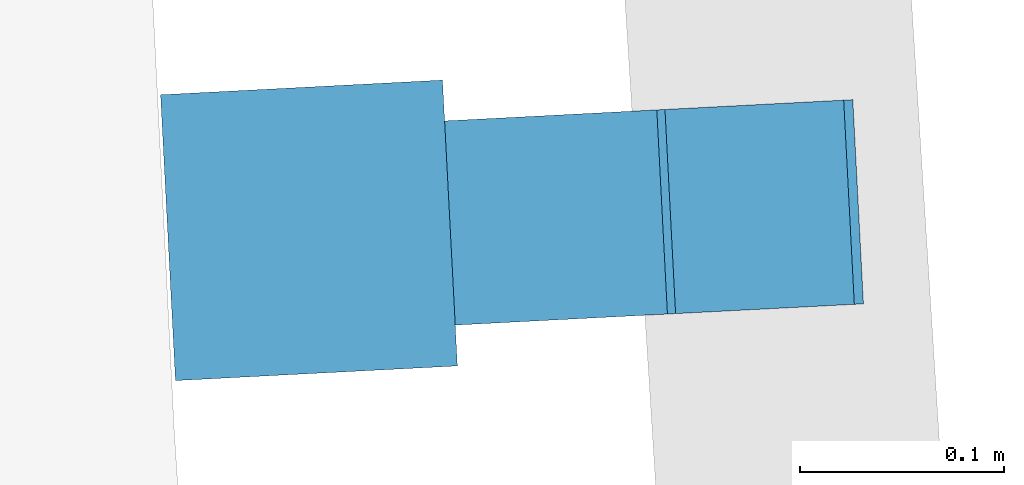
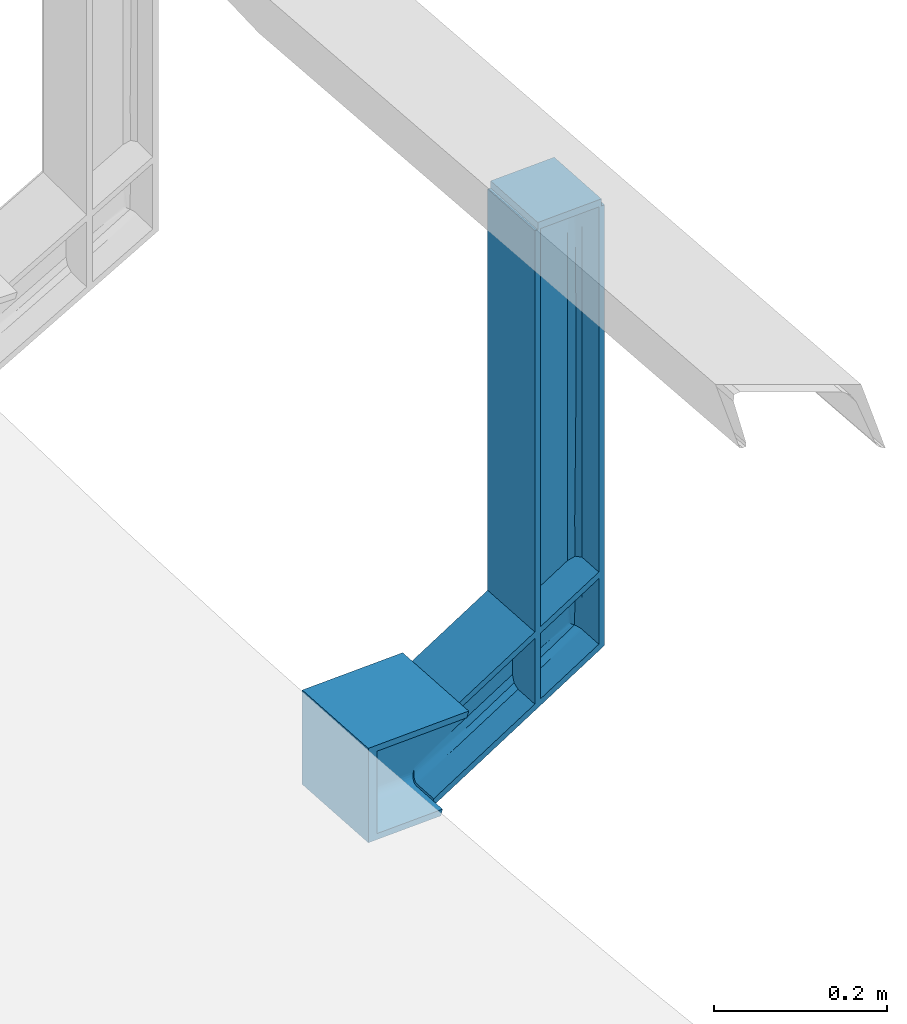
# One storey, part 39 of 68: 1 beam.
"""IFC2X3 building model written with IfcOpenShell, lengths in millimetres."""

from ifc_helpers import new_model, entity, si_unit, converted_unit, derived_unit, direction, frame, origin, place, context, subcontext, project, spatial, faceted_brep, source, transform, mapped, material, type_object, type_shapes, element, save


model = new_model("IFC2X3")

# Units and contexts
model_context = context("Model", 3, precision=0.01, world=origin(), true_north=direction((6.12303176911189e-17, 1.0)))
body_context = subcontext(model_context, "Body", "Model", "MODEL_VIEW")
ifc_project = project(units=[si_unit("LENGTHUNIT", "METRE", prefix="MILLI"), si_unit("AREAUNIT", "SQUARE_METRE", prefix="MILLI"), si_unit("VOLUMEUNIT", "CUBIC_METRE"), converted_unit("PLANEANGLEUNIT", "DEGREE", entity("IfcRatioMeasure", 0.0174532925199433), si_unit("PLANEANGLEUNIT", "RADIAN"), dimensions=[0, 0, 0, 0, 0, 0, 0]), si_unit("MASSUNIT", "GRAM", prefix="KILO"), derived_unit("MASSDENSITYUNIT", [(si_unit("MASSUNIT", "GRAM", prefix="KILO"), 1), (si_unit("LENGTHUNIT", "METRE"), -3)]), derived_unit("MOMENTOFINERTIAUNIT", [(si_unit("LENGTHUNIT", "METRE"), 4)]), si_unit("TIMEUNIT", "SECOND"), si_unit("FREQUENCYUNIT", "HERTZ"), si_unit("THERMODYNAMICTEMPERATUREUNIT", "DEGREE_CELSIUS"), derived_unit("THERMALTRANSMITTANCEUNIT", [(si_unit("MASSUNIT", "GRAM", prefix="KILO"), 1), (si_unit("THERMODYNAMICTEMPERATUREUNIT", "KELVIN"), -1), (si_unit("TIMEUNIT", "SECOND"), -3)]), derived_unit("VOLUMETRICFLOWRATEUNIT", [(si_unit("LENGTHUNIT", "METRE"), 3), (si_unit("TIMEUNIT", "SECOND"), -1)]), si_unit("ELECTRICCURRENTUNIT", "AMPERE"), si_unit("ELECTRICVOLTAGEUNIT", "VOLT"), si_unit("POWERUNIT", "WATT"), si_unit("FORCEUNIT", "NEWTON", prefix="KILO"), si_unit("ILLUMINANCEUNIT", "LUX"), si_unit("LUMINOUSFLUXUNIT", "LUMEN"), si_unit("LUMINOUSINTENSITYUNIT", "CANDELA"), derived_unit("USERDEFINED", [(si_unit("MASSUNIT", "GRAM", prefix="KILO"), -1), (si_unit("LENGTHUNIT", "METRE"), -2), (si_unit("TIMEUNIT", "SECOND"), 3), (si_unit("LUMINOUSFLUXUNIT", "LUMEN"), 1)]), derived_unit("LINEARVELOCITYUNIT", [(si_unit("LENGTHUNIT", "METRE"), 1), (si_unit("TIMEUNIT", "SECOND"), -1)]), si_unit("PRESSUREUNIT", "PASCAL"), derived_unit("USERDEFINED", [(si_unit("LENGTHUNIT", "METRE"), -2), (si_unit("MASSUNIT", "GRAM", prefix="KILO"), 1), (si_unit("TIMEUNIT", "SECOND"), -2)]), derived_unit("LINEARFORCEUNIT", [(si_unit("MASSUNIT", "GRAM", prefix="KILO"), 1), (si_unit("LENGTHUNIT", "METRE"), 1), (si_unit("TIMEUNIT", "SECOND"), -2), (si_unit("LENGTHUNIT", "METRE"), -1)]), derived_unit("PLANARFORCEUNIT", [(si_unit("MASSUNIT", "GRAM", prefix="KILO"), 1), (si_unit("LENGTHUNIT", "METRE"), 1), (si_unit("TIMEUNIT", "SECOND"), -2), (si_unit("LENGTHUNIT", "METRE"), -2)])], contexts=[model_context])

# Site, building, storey
site_placement = place(None, origin())
site = spatial("IfcSite", under=ifc_project, at=site_placement, Name="Theater aan de Parade", CompositionType="ELEMENT")
building_placement = place(site_placement, origin())
building = spatial("IfcBuilding", under=site, at=building_placement, Name="Theater aan de Parade", CompositionType="ELEMENT")
storey_placement = place(building_placement, frame((0.0, 0.0, 8750.0)))
storey = spatial("IfcBuildingStorey", under=building, at=storey_placement, Name="02 tweede verdieping", CompositionType="ELEMENT", Elevation=8750.0)

# Beam
ifc_material = material(Name="00_PBT_MAT_staal_S355")
beam_type = type_object("IfcBeamType", Name="28_PBT_SF_staal_baluster balkon:baluster HEA100", PredefinedType="BEAM", material=ifc_material)
shared_shape = source(origin(), body_context, "Body", "Brep", [
    faceted_brep([(50.0, 43.537813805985, 625.0), (50.0, 43.537813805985, 635.0), (50.0, -44.0, 635.0), (50.0, -44.0, 625.0), (-50.0, 43.537813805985, 625.0), (-50.0, -44.0, 625.0), (-50.0, -44.0, 635.0), (-50.0, 43.537813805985, 635.0)], [[[0, 1, 2, 3]], [[4, 5, 6, 7]], [[3, 5, 4, 0]], [[2, 6, 5, 3]], [[1, 7, 6, 2]], [[0, 4, 7, 1]]]),
    faceted_brep([(70.0, -278.0, -133.0), (70.0, -278.0, 0.0), (70.0, -290.0, 0.0), (70.0, -290.0, -133.0), (-70.0, -278.0, -133.0), (-70.0, -290.0, -133.0), (-70.0, -290.0, 0.0), (-70.0, -278.0, 0.0)], [[[0, 1, 2, 3]], [[4, 5, 6, 7]], [[3, 5, 4, 0]], [[2, 6, 5, 3]], [[1, 7, 6, 2]], [[0, 4, 7, 1]]]),
    faceted_brep([(70.0, -278.0, -133.0), (70.0, -278.0, -124.5), (14.7499999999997, -278.0, -124.5), (11.6441714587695, -278.0, -124.091109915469), (8.74999999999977, -278.0, -122.892304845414), (6.26471862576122, -278.0, -120.985281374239), (4.35769515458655, -278.0, -118.5), (3.15889008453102, -278.0, -115.60582854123), (2.74999999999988, -278.0, -112.5), (2.74999999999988, -278.0, -20.5000000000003), (3.15889008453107, -278.0, -17.39417145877), (4.35769515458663, -278.0, -14.5000000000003), (6.26471862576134, -278.0, -12.0147186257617), (8.74999999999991, -278.0, -10.107695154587), (11.6441714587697, -278.0, -8.90889008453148), (14.7499999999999, -278.0, -8.50000000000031), (70.0, -278.0, -8.50000000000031), (70.0, -278.0, 0.0), (-70.0, -278.0, 0.0), (-70.0, -278.0, -8.50000000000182), (-14.7499999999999, -278.0, -8.50000000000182), (-11.6441714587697, -278.0, -8.90889008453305), (-8.74999999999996, -278.0, -10.1076951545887), (-6.26471862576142, -278.0, -12.0147186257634), (-4.35769515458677, -278.0, -14.500000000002), (-3.15889008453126, -278.0, -17.3941714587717), (-2.75000000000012, -278.0, -20.5000000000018), (-2.75000000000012, -278.0, -112.500000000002), (-3.15889008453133, -278.0, -115.605828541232), (-4.3576951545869, -278.0, -118.500000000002), (-6.26471862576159, -278.0, -120.98528137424), (-8.75000000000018, -278.0, -122.892304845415), (-11.6441714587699, -278.0, -124.091109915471), (-14.7500000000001, -278.0, -124.500000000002), (-70.0, -278.0, -124.500000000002), (-70.0, -278.0, -133.0), (70.0, -154.37480362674, -8.50000000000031), (70.0, -151.923048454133, 0.0), (70.0, -190.285805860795, -133.0), (70.0, -187.834050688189, -124.5), (14.7499999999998, -214.852904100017, -8.50000000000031), (14.7499999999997, -154.37480362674, -8.50000000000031), (-70.0, -154.37480362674, -8.50000000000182), (-14.7500000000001, -154.37480362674, -8.50000000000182), (-14.7500000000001, -214.852905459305, -8.50000000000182), (6.43965673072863, -216.327371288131, -11.8433150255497), (2.74999999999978, -217.521904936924, -20.5000000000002), (12.079748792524, -154.461585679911, -8.8008650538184), (9.5433951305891, -154.717580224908, -9.68837358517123), (5.36802221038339, -155.678018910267, -13.0181223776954), (7.26812237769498, -155.129950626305, -11.1180222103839), (2.74999999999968, -157.83610504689, -20.5000000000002), (3.05086505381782, -157.065893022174, -17.8297487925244), (3.9383735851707, -156.334302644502, -15.2933951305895), (2.74999999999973, -184.372749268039, -112.5), (3.93837358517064, -185.874551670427, -117.706604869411), (3.05086505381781, -185.142961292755, -115.170251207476), (5.36802221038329, -186.530835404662, -119.981877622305), (7.26812237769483, -187.078903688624, -121.881977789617), (9.54339513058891, -187.491274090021, -123.311626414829), (12.0797487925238, -187.747268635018, -124.199134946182), (14.7499999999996, -187.834050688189, -124.5), (-14.7500000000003, -187.83405068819, -124.500000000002), (-70.0, -187.83405068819, -124.500000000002), (-70.0, -190.285805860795, -133.0), (-70.0, -151.923048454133, 0.0), (-9.54339513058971, -187.491274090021, -123.311626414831), (-12.0797487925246, -187.747268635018, -124.199134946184), (-7.2681223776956, -187.078903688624, -121.881977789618), (-5.36802221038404, -186.530835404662, -119.981877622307), (-3.93837358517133, -185.874551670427, -117.706604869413), (-3.05086505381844, -185.142961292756, -115.170251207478), (-2.75000000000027, -184.37274926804, -112.500000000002), (-2.75000000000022, -217.521899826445, -20.500000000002), (-2.75000000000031, -157.83610504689, -20.500000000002), (-6.43965718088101, -216.327373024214, -11.8433145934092), (-3.05086505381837, -157.065893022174, -17.8297487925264), (-3.93837358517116, -156.334302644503, -15.2933951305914), (-7.2681223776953, -155.129950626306, -11.1180222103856), (-5.36802221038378, -155.678018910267, -13.0181223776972), (-12.0797487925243, -154.461585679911, -8.80086505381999), (-9.54339513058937, -154.717580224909, -9.68837358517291)], [[[0, 1, 2, 3, 4, 5, 6, 7, 8, 9, 10, 11, 12, 13, 14, 15, 16, 17, 18, 19, 20, 21, 22, 23, 24, 25, 26, 27, 28, 29, 30, 31, 32, 33, 34, 35]], [[36, 37, 17, 16]], [[38, 39, 1, 0]], [[36, 16, 15, 40, 41]], [[19, 42, 43, 44, 20]], [[13, 45, 14]], [[12, 45, 13]], [[46, 45, 11]], [[47, 41, 40]], [[14, 40, 15]], [[45, 12, 11]], [[48, 47, 40]], [[49, 50, 45]], [[10, 9, 46]], [[40, 45, 48]], [[11, 10, 46]], [[46, 51, 52]], [[53, 46, 52]], [[46, 53, 45]], [[45, 53, 49]], [[45, 50, 48]], [[14, 45, 40]], [[54, 51, 46, 9, 8]], [[7, 6, 55]], [[8, 7, 56]], [[56, 54, 8]], [[57, 55, 6]], [[56, 7, 55]], [[6, 5, 57]], [[58, 5, 4]], [[59, 4, 3]], [[60, 3, 2]], [[59, 58, 4]], [[61, 60, 2]], [[59, 3, 60]], [[5, 58, 57]], [[39, 61, 2, 1]], [[62, 63, 34, 33]], [[38, 0, 35, 64]], [[64, 35, 34, 63]], [[42, 19, 18, 65]], [[32, 31, 66]], [[33, 32, 67]], [[67, 62, 33]], [[68, 66, 31]], [[67, 32, 66]], [[31, 30, 68]], [[69, 30, 29]], [[70, 29, 28]], [[71, 28, 27]], [[70, 69, 29]], [[72, 71, 27]], [[70, 28, 71]], [[30, 69, 68]], [[72, 27, 26, 73, 74]], [[25, 24, 73]], [[24, 23, 75]], [[75, 22, 21]], [[76, 74, 73]], [[75, 23, 22]], [[73, 77, 76]], [[78, 79, 75]], [[44, 80, 81]], [[73, 75, 77]], [[25, 73, 26]], [[21, 44, 75]], [[21, 20, 44]], [[43, 80, 44]], [[44, 81, 75]], [[78, 75, 81]], [[75, 79, 77]], [[73, 24, 75]], [[37, 65, 18, 17]], [[39, 38, 64, 63, 62, 67, 66, 68, 69, 70, 71, 72, 74, 76, 77, 79, 78, 81, 80, 43, 42, 65, 37, 36, 41, 47, 48, 50, 49, 53, 52, 51, 54, 56, 55, 57, 58, 59, 60, 61]]]),
    faceted_brep([(50.0, 48.0, 106.188021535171), (50.0, 48.0, 115.425625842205), (50.0, -151.923048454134, 0.0), (50.0, -155.119944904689, -11.0833333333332), (50.0, 48.0, 4.57437415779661), (50.0, 48.0, 13.8119784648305), (50.0, -187.08890941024, -121.916666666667), (50.0, -190.285805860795, -133.0), (14.4999999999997, -155.119944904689, -11.0833333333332), (14.4999999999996, -56.7511342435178, 45.7099259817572), (14.4999999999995, -4.37557443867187, 75.9489695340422), (14.4999999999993, 48.0, 106.188021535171), (-50.0, -155.119944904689, -11.0833333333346), (-50.0, 48.0, 106.188021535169), (-14.5000000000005, 48.0, 106.188021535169), (-14.5000000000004, -4.37556718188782, 75.9489737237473), (-14.5000000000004, -56.7511343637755, 45.7099259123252), (-14.5000000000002, -155.119944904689, -11.0833333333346), (9.9077988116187, -155.484968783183, -12.348836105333), (6.13940978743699, -85.6560198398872, 25.1051305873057), (12.1589161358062, -155.212086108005, -11.4027780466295), (2.49999999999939, -4.37556820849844, 62.0925666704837), (2.49999999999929, 48.0, 92.3316150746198), (2.80086505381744, 48.0, 95.4149555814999), (6.04197655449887, -10.2229142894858, 68.5459327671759), (2.49999999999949, -55.1641531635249, 32.769763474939), (2.73057663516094, -158.979764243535, -24.4649567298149), (2.49999999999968, -159.915289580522, -27.7083333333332), (2.49999999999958, -107.539721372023, 2.53071507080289), (7.83315720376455, -155.92810620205, -13.8851510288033), (11.8297487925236, 48.0, 105.840612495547), (4.52236465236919, -157.25113882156, -18.4719782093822), (3.41344560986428, -158.0801906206, -21.3462212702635), (5.11802221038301, 48.0, 100.970943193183), (7.01812237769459, 48.0, 103.164989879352), (3.68837358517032, 48.0, 98.3436845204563), (9.29339513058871, 48.0, 104.815805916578), (6.01471862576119, -156.524468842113, -15.9526830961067), (2.49999999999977, -182.293564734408, -105.291666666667), (2.49999999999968, -129.917998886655, -75.052619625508), (2.49999999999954, -56.7511354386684, -32.8097113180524), (2.49999999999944, -4.3755695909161, -2.57066427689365), (2.49999999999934, 48.0, 27.6683849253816), (6.01471862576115, -185.684385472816, -117.047316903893), (6.30956465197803, -103.743785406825, -70.0679088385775), (4.52236465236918, -184.957715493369, -114.528021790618), (7.83315720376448, -186.280748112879, -119.114848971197), (9.90779881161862, -186.723885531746, -120.651163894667), (14.4999999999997, -134.713341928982, -91.677618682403), (12.1589161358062, -186.996768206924, -121.597221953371), (14.4999999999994, -4.37556748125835, -16.4270695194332), (5.87838992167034, -26.389988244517, -24.9186641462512), (14.4999999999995, -69.5444547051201, -54.0523441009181), (5.11802221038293, 48.0, 19.0290568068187), (3.4134456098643, -184.128663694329, -111.653778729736), (2.80086505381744, 48.0, 24.5850444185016), (3.68837358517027, 48.0, 21.6563154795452), (14.4999999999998, -187.08890941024, -121.916666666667), (7.01812237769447, 48.0, 16.8350101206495), (9.29339513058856, 48.0, 15.1841940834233), (2.73057663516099, -183.229090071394, -108.535043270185), (11.8297487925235, 48.0, 14.1593875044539), (14.4999999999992, 48.0, 13.8119784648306), (-50.0, -187.088909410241, -121.916666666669), (-14.5000000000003, -187.088909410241, -121.916666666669), (-14.5000000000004, -134.713341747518, -91.6776185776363), (-14.5000000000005, -69.544456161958, -54.0523449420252), (-14.5000000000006, -4.37556766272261, -16.427069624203), (-14.5000000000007, 48.0, 13.8119784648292), (-50.0, 48.0, 13.8119784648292), (-50.0, -190.285805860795, -133.0), (-50.0, 48.0, 4.57437415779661), (-50.0, -151.923048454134, 0.0), (-50.0, 48.0, 115.425625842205), (-6.30956482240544, -103.743788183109, -70.0679106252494), (-4.52236465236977, -184.95771549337, -114.52802179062), (-3.41344560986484, -184.128663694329, -111.653778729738), (-2.50000000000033, -129.917995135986, -75.0526174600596), (-5.87838988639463, -26.3899865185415, -24.9186631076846), (-7.01812237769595, 48.0, 16.835010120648), (-9.29339513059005, 48.0, 15.1841940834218), (-6.01471862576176, -185.684385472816, -117.047316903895), (-7.8331572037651, -186.28074811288, -119.114848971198), (-11.829748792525, 48.0, 14.1593875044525), (-2.50000000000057, -4.37556959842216, -2.57066428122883), (-5.11802221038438, 48.0, 19.0290568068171), (-2.7305766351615, -183.229090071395, -108.535043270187), (-2.50000000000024, -182.293564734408, -105.291666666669), (-9.90779881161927, -186.723885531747, -120.651163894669), (-12.1589161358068, -186.996768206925, -121.597221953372), (-2.50000000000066, 48.0, 27.6683849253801), (-2.80086505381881, 48.0, 24.5850444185), (-2.50000000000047, -56.7511295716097, -32.809707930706), (-3.68837358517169, 48.0, 21.6563154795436), (-2.50000000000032, -159.915289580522, -27.708333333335), (-2.50000000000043, -107.539724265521, 2.53071340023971), (-2.50000000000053, -55.1641511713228, 32.7697646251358), (-2.50000000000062, -4.37556531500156, 62.0925683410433), (-2.50000000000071, 48.0, 92.3316150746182), (-2.73057663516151, -158.979764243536, -24.464956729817), (-11.8297487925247, 48.0, 105.840612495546), (-7.83315720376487, -155.92810620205, -13.885151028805), (-6.13940988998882, -85.6560228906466, 25.1051289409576), (-6.01471862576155, -156.524468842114, -15.9526830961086), (-6.04197656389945, -10.2229155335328, 68.5459320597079), (-7.0181223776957, 48.0, 103.16498987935), (-5.11802221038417, 48.0, 100.970943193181), (-9.90779881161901, -155.484968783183, -12.3488361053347), (-4.52236465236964, -157.25113882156, -18.4719782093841), (-3.68837358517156, 48.0, 98.3436845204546), (-2.80086505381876, 48.0, 95.4149555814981), (-12.1589161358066, -155.212086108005, -11.402778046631), (-3.41344560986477, -158.080190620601, -21.3462212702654), (-9.29339513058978, 48.0, 104.815805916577)], [[[0, 1, 2, 3]], [[4, 5, 6, 7]], [[0, 3, 8, 9, 10, 11]], [[12, 13, 14, 15, 16, 17]], [[18, 19, 20]], [[21, 22, 23]], [[24, 25, 21]], [[26, 27, 28]], [[19, 18, 29]], [[25, 19, 28]], [[9, 24, 10]], [[20, 9, 8]], [[19, 9, 20]], [[19, 24, 9]], [[25, 24, 19]], [[30, 11, 10]], [[28, 31, 32]], [[24, 33, 34]], [[33, 24, 35]], [[35, 24, 21]], [[36, 24, 34]], [[28, 32, 26]], [[31, 19, 37]], [[30, 10, 36]], [[31, 28, 19]], [[35, 21, 23]], [[36, 10, 24]], [[37, 19, 29]], [[27, 38, 39, 40, 41, 42, 22, 21, 25, 28]], [[43, 44, 45]], [[46, 47, 48]], [[48, 47, 49]], [[50, 51, 52]], [[53, 41, 51]], [[54, 45, 44]], [[55, 42, 41]], [[55, 41, 56]], [[49, 57, 48]], [[40, 39, 44]], [[58, 53, 51]], [[43, 46, 44]], [[51, 59, 58]], [[39, 54, 44]], [[54, 39, 60]], [[40, 44, 51]], [[61, 50, 62]], [[41, 40, 51]], [[44, 48, 52]], [[44, 46, 48]], [[56, 41, 53]], [[39, 38, 60]], [[59, 50, 61]], [[51, 44, 52]], [[51, 50, 59]], [[5, 62, 50, 52, 48, 57, 6]], [[63, 64, 65, 66, 67, 68, 69]], [[4, 7, 70, 71]], [[71, 70, 63, 69]], [[13, 12, 72, 73]], [[66, 65, 74]], [[75, 76, 74]], [[77, 74, 76]], [[78, 79, 80]], [[81, 74, 82]], [[83, 67, 80]], [[78, 84, 85]], [[86, 87, 77]], [[88, 82, 65]], [[88, 65, 89]], [[84, 90, 91]], [[66, 74, 78]], [[78, 80, 67]], [[92, 78, 74]], [[83, 68, 67]], [[84, 78, 92]], [[93, 84, 91]], [[93, 85, 84]], [[74, 65, 82]], [[78, 85, 79]], [[64, 89, 65]], [[74, 81, 75]], [[74, 77, 92]], [[86, 77, 76]], [[66, 78, 67]], [[94, 95, 96, 97, 98, 90, 84, 92, 77, 87]], [[94, 99, 95]], [[15, 14, 100]], [[101, 102, 103]], [[104, 105, 106]], [[107, 102, 101]], [[103, 102, 108]], [[16, 104, 102]], [[104, 96, 102]], [[102, 95, 108]], [[109, 110, 97]], [[107, 111, 102]], [[96, 104, 97]], [[109, 104, 106]], [[112, 95, 99]], [[16, 15, 104]], [[95, 112, 108]], [[113, 15, 100]], [[16, 102, 111]], [[97, 104, 109]], [[102, 96, 95]], [[113, 104, 15]], [[111, 17, 16]], [[105, 104, 113]], [[110, 98, 97]], [[1, 73, 72, 2]], [[5, 4, 71, 69, 68, 83, 80, 79, 85, 93, 91, 90, 98, 110, 109, 106, 105, 113, 100, 14, 13, 73, 1, 0, 11, 30, 36, 34, 33, 35, 23, 22, 42, 55, 56, 53, 58, 59, 61, 62]], [[3, 2, 72, 12, 17, 111, 107, 101, 103, 108, 112, 99, 94, 87, 86, 76, 75, 81, 82, 88, 89, 64, 63, 70, 7, 6, 57, 49, 47, 46, 43, 45, 54, 60, 38, 27, 26, 32, 31, 37, 29, 18, 20, 8]]]),
    faceted_brep([(50.0, -48.0, 625.0), (50.0, -40.0, 625.0), (14.4999999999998, -40.0, 625.0), (11.3941714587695, -39.5911099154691, 625.0), (8.4999999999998, -38.3923048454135, 625.0), (6.01471862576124, -36.4852813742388, 625.0), (4.10769515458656, -34.0, 625.0), (2.90889008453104, -31.1058285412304, 625.0), (2.49999999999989, -28.0, 625.0), (2.49999999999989, 28.0, 625.0), (2.90889008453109, 31.10582854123, 625.0), (4.10769515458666, 34.0, 625.0), (6.01471862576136, 36.4852813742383, 625.0), (8.49999999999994, 38.392304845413, 625.0), (11.3941714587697, 39.5911099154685, 625.0), (14.4999999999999, 40.0, 625.0), (50.0, 40.0, 625.0), (50.0, 48.0, 625.0), (-50.0, 48.0, 625.0), (-50.0, 40.0, 625.0), (-14.4999999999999, 40.0, 625.0), (-11.3941714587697, 39.5911099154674, 625.0), (-8.49999999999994, 38.3923048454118, 625.0), (-6.01471862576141, 36.4852813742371, 625.0), (-4.10769515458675, 34.0, 625.0), (-2.90889008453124, 31.1058285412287, 625.0), (-2.50000000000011, 28.0, 625.0), (-2.5000000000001, -28.0, 625.0), (-2.90889008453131, -31.1058285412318, 625.0), (-4.10769515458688, -34.0, 625.0), (-6.01471862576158, -36.4852813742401, 625.0), (-8.50000000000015, -38.3923048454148, 625.0), (-11.3941714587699, -39.5911099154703, 625.0), (-14.5000000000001, -40.0, 625.0), (-50.0, -40.0, 625.0), (-50.0, -48.0, 625.0), (50.0, 48.0, 165.0), (50.0, 40.0, -0.0444279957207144), (50.0, 48.0, 4.57437415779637), (50.0, -40.0, -46.2324495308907), (50.0, -48.0, -50.8512516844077), (14.4999999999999, 40.0, 564.521909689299), (14.4999999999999, 40.0, 468.738898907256), (14.4999999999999, 40.0, 390.608336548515), (14.4999999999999, 40.0, 312.477797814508), (14.4999999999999, 40.0, 234.347235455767), (14.4999999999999, 40.0, 156.216673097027), (14.4999999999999, 40.0, 60.4336623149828), (14.4999999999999, 40.0, -0.0444279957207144), (-50.0, 40.0, -0.0444279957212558), (-14.4999999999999, 40.0, -0.0444279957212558), (-14.4999999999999, 40.0, 60.4336769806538), (-14.4999999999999, 40.0, 156.21667900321), (-14.5, 40.0, 234.34724221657), (-14.5, 40.0, 312.477786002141), (-14.5, 40.0, 390.608329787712), (-14.5, 40.0, 468.738893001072), (-14.5, 40.0, 564.521895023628), (6.01471822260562, 36.4852809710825, 534.282851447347), (2.49999999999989, 28.0, 504.043808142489), (2.49999999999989, 28.0, 429.969876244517), (6.38111782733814, 36.8365011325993, 422.595542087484), (9.29339513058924, 38.8116264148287, -0.730535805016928), (5.87838991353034, 36.3467262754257, 83.7445110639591), (7.01812237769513, 37.3819777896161, -1.55594382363), (2.49999999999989, 28.0, 564.521899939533), (5.11802221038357, 35.4818776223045, -2.65296716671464), (11.8297487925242, 39.6991349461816, -0.21813251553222), (6.03175640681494, 36.5022850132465, 273.412504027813), (5.33717277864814, 35.7487158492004, 157.721305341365), (2.49999999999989, 28.0, 113.983560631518), (2.49999999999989, 28.0, 53.5054688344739), (2.49999999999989, 28.0, -6.97263122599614), (2.80086505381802, 30.6702512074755, -5.43096097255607), (6.45584074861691, 36.9045775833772, 351.543056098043), (3.68837358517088, 33.2066048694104, -3.96659650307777), (2.49999999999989, 28.0, 234.939752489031), (2.49999999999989, 28.0, 174.461652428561), (2.49999999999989, 28.0, 332.454810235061), (2.49999999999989, -28.0, 564.521918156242), (2.49999999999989, -28.0, 504.043820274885), (2.49999999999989, -28.0, 443.565722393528), (2.49999999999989, -28.0, 383.08762451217), (2.49999999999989, -28.0, 277.489656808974), (2.49999999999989, -28.0, 171.891689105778), (2.49999999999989, -28.0, 81.6519494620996), (2.49999999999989, -28.0, 21.1738515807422), (2.49999999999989, -28.0, -39.3042463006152), (14.4999999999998, -40.0, 564.521903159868), (14.4999999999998, -40.0, 457.191883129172), (6.01471890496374, -36.4852816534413, 534.282850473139), (14.4999999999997, -40.0, 14.24565628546), (5.87838987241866, -36.3467262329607, 51.4128968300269), (14.4999999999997, -40.0, 74.723753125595), (14.4999999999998, -40.0, 182.053764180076), (7.12980766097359, -37.469966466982, 128.3887480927), (14.4999999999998, -40.0, 373.287829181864), (14.4999999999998, -40.0, 289.383775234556), (5.68142979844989, -36.138354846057, 331.33579860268), (6.48410362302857, -36.9300282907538, 264.631830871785), (5.11802221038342, -35.481877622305, -43.6239103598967), (3.68837358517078, -33.2066048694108, -42.3102810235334), (14.4999999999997, -40.0, -46.2324495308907), (11.8297487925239, -39.6991349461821, -46.058745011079), (9.29339513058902, -38.8116264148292, -45.5463417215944), (7.01812237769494, -37.3819777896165, -44.7209337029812), (5.85986411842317, -36.3275477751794, 197.731198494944), (5.34384824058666, -35.7566026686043, 460.437179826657), (2.80086505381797, -30.6702512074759, -40.8459165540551), (6.59968170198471, -37.0324399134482, 396.193688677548), (-50.0, -40.0, -46.2324495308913), (-14.5000000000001, -40.0, 564.521911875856), (-14.5000000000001, -40.0, 457.191887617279), (-14.5000000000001, -40.0, 373.287826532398), (-14.5000000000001, -40.0, 289.383775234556), (-14.5000000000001, -40.0, 205.479723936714), (-14.5000000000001, -40.0, 121.575662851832), (-14.5000000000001, -40.0, 14.2456483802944), (-14.5000000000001, -40.0, -46.2324495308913), (-50.0, -48.0, -50.8512516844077), (-50.0, 48.0, 165.0), (-50.0, 48.0, 4.57437415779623), (-6.01471845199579, -36.4852812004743, 534.282853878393), (-2.5000000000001, -28.0, 504.043796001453), (-5.34384807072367, -35.7566024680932, 460.437182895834), (-2.5000000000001, -28.0, 564.521907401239), (-9.29339513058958, -38.8116264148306, -45.5463417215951), (-7.01812237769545, -37.3819777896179, -44.720933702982), (-6.37223200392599, -36.8283286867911, 262.824412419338), (-5.68142973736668, -36.1383547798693, 331.33579885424), (-6.59968165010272, -37.0324398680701, 396.193689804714), (-2.5000000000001, -28.0, 383.087610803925), (-11.8297487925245, -39.6991349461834, -46.0587450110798), (-5.11802221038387, -35.4818776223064, -43.6239103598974), (-6.18948395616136, -36.6565191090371, 51.4128959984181), (-3.68837358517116, -33.2066048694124, -42.3102810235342), (-2.5000000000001, -28.0, 21.1738462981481), (-2.80086505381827, -30.6702512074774, -40.8459165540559), (-5.35181665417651, -35.7659990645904, 125.002033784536), (-2.5000000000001, -28.0, 81.6519388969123), (-2.5000000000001, -28.0, -39.304246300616), (-2.5000000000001, -28.0, 277.489641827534), (-2.5000000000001, -28.0, 443.565703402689), (-2.5000000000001, -28.0, 171.891672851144), (-5.88018165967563, -36.3485766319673, 194.135386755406), (-2.50000000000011, 28.0, 564.521898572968), (-2.50000000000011, 28.0, 504.043797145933), (-2.50000000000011, 28.0, 429.969878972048), (-2.50000000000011, 28.0, 332.454826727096), (-2.50000000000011, 28.0, 234.939757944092), (-2.50000000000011, 28.0, 174.461656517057), (-2.50000000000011, 28.0, 113.983555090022), (-2.50000000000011, 28.0, 53.5054536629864), (-2.50000000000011, 28.0, -6.97263122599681), (-5.87838991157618, 36.3467262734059, 83.7445122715), (-9.29339513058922, 38.8116264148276, -0.730535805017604), (-5.33717271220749, 35.7487157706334, 157.721307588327), (-6.01471873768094, 36.4852814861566, 534.282853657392), (-6.38111797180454, 36.8365012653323, 422.595548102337), (-6.45584072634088, 36.9045775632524, 351.543059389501), (-3.688373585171, 33.2066048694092, -3.96659650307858), (-2.80086505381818, 30.6702512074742, -5.43096097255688), (-7.01812237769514, 37.3819777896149, -1.55594382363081), (-5.11802221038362, 35.4818776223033, -2.65296716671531), (-6.03175635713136, 36.5022849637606, 273.412506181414), (-11.8297487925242, 39.6991349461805, -0.218132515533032)], [[[0, 1, 2, 3, 4, 5, 6, 7, 8, 9, 10, 11, 12, 13, 14, 15, 16, 17, 18, 19, 20, 21, 22, 23, 24, 25, 26, 27, 28, 29, 30, 31, 32, 33, 34, 35]], [[36, 17, 16, 37, 38]], [[39, 1, 0, 40]], [[37, 16, 15, 41, 42, 43, 44, 45, 46, 47, 48]], [[19, 49, 50, 51, 52, 53, 54, 55, 56, 57, 20]], [[13, 12, 58]], [[11, 58, 12]], [[58, 42, 41]], [[59, 60, 61]], [[62, 63, 64]], [[65, 11, 10]], [[66, 64, 63]], [[67, 48, 47]], [[45, 68, 69]], [[69, 70, 63]], [[65, 59, 58]], [[46, 63, 47]], [[63, 46, 69]], [[67, 47, 62]], [[41, 15, 14]], [[71, 72, 73]], [[58, 41, 13]], [[44, 74, 68]], [[43, 74, 44]], [[58, 11, 65]], [[13, 41, 14]], [[75, 71, 73]], [[47, 63, 62]], [[71, 63, 70]], [[75, 66, 71]], [[59, 61, 58]], [[63, 71, 66]], [[10, 9, 65]], [[44, 68, 45]], [[69, 76, 77, 70]], [[69, 46, 45]], [[68, 78, 76]], [[74, 60, 78]], [[69, 68, 76]], [[74, 43, 61]], [[60, 74, 61]], [[68, 74, 78]], [[43, 42, 61]], [[58, 61, 42]], [[8, 79, 80, 81, 82, 83, 84, 85, 86, 87, 72, 71, 70, 77, 76, 78, 60, 59, 65, 9]], [[3, 88, 4]], [[88, 89, 90]], [[91, 92, 93]], [[4, 90, 5]], [[92, 86, 85]], [[94, 93, 95]], [[5, 90, 6]], [[96, 97, 98]], [[99, 98, 97]], [[92, 100, 101]], [[90, 80, 79]], [[6, 79, 7]], [[86, 92, 101]], [[91, 102, 103]], [[104, 91, 103]], [[90, 79, 6]], [[92, 105, 100]], [[104, 105, 91]], [[99, 94, 106]], [[90, 4, 88]], [[80, 90, 107]], [[3, 2, 88]], [[101, 108, 86]], [[108, 87, 86]], [[92, 91, 105]], [[79, 8, 7]], [[94, 95, 106]], [[85, 84, 95]], [[107, 90, 89]], [[85, 95, 92]], [[92, 95, 93]], [[106, 95, 84]], [[89, 96, 109]], [[109, 81, 107]], [[81, 109, 82]], [[96, 98, 109]], [[83, 82, 98]], [[84, 83, 106]], [[83, 98, 99]], [[94, 99, 97]], [[83, 99, 106]], [[82, 109, 98]], [[81, 80, 107]], [[89, 109, 107]], [[1, 39, 102, 91, 93, 94, 97, 96, 89, 88, 2]], [[110, 34, 33, 111, 112, 113, 114, 115, 116, 117, 118]], [[119, 40, 0, 35]], [[110, 119, 35, 34]], [[120, 121, 49, 19, 18]], [[122, 31, 30]], [[122, 111, 31]], [[122, 123, 124]], [[122, 125, 123]], [[126, 117, 127]], [[111, 33, 32]], [[31, 111, 32]], [[112, 122, 124]], [[128, 114, 129]], [[130, 131, 129]], [[132, 118, 117]], [[133, 127, 134]], [[29, 122, 30]], [[117, 116, 134]], [[135, 133, 134]], [[135, 136, 137]], [[122, 112, 111]], [[134, 136, 135]], [[134, 138, 139]], [[136, 134, 139]], [[29, 125, 122]], [[140, 137, 136]], [[132, 117, 126]], [[28, 27, 125]], [[134, 127, 117]], [[125, 29, 28]], [[138, 134, 116]], [[131, 141, 129]], [[124, 123, 142]], [[130, 112, 124]], [[113, 129, 114]], [[130, 129, 113]], [[143, 139, 138]], [[116, 115, 144]], [[144, 138, 116]], [[138, 144, 143]], [[128, 141, 144]], [[128, 115, 114]], [[141, 143, 144]], [[141, 128, 129]], [[115, 128, 144]], [[112, 130, 113]], [[130, 142, 131]], [[130, 124, 142]], [[27, 26, 145, 146, 147, 148, 149, 150, 151, 152, 153, 140, 136, 139, 143, 141, 131, 142, 123, 125]], [[22, 21, 57]], [[154, 51, 155]], [[154, 151, 156]], [[146, 145, 157]], [[23, 157, 24]], [[23, 22, 157]], [[158, 55, 159]], [[57, 56, 157]], [[152, 160, 161]], [[52, 154, 156]], [[21, 20, 57]], [[24, 145, 25]], [[25, 145, 26]], [[162, 163, 154]], [[158, 159, 147]], [[157, 145, 24]], [[161, 153, 152]], [[154, 155, 162]], [[152, 151, 154]], [[154, 163, 152]], [[148, 159, 164]], [[51, 50, 165]], [[51, 154, 52]], [[157, 22, 57]], [[152, 163, 160]], [[155, 51, 165]], [[157, 56, 158]], [[157, 158, 146]], [[156, 151, 150, 149]], [[164, 156, 149]], [[164, 54, 53]], [[53, 52, 156]], [[156, 164, 53]], [[54, 159, 55]], [[148, 164, 149]], [[164, 159, 54]], [[147, 159, 148]], [[158, 147, 146]], [[56, 55, 158]], [[120, 18, 17, 36, 38, 121]], [[39, 40, 119, 110, 118, 132, 126, 127, 133, 135, 137, 140, 153, 161, 160, 163, 162, 155, 165, 50, 49, 121, 38, 37, 48, 67, 62, 64, 66, 75, 73, 72, 87, 108, 101, 100, 105, 104, 103, 102]]]),
])
type_shapes(beam_type, [shared_shape])
beam_placement = place(storey_placement, frame((53367.6522538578, 31466.3474867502, -2040.0), z_axis=(0.0, 0.0, 1.0), x_axis=(0.0519957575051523, -0.998647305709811, 0.0)))
element("IfcBeam", 1, at=beam_placement, inside=storey, type_object=beam_type, material=ifc_material, Name="28_PBT_SF_staal_baluster balkon:baluster HEA100", ObjectType="28_PBT_SF_staal_baluster balkon:baluster HEA100", context=body_context, shape_type="MappedRepresentation", body=[
    mapped(shared_shape, transform((0.0, 0.0, 0.0), scale=1.0)),
])

save(model, "model.ifc")
